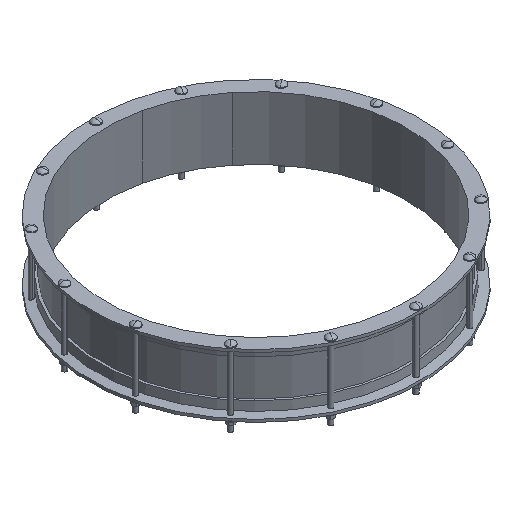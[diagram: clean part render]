
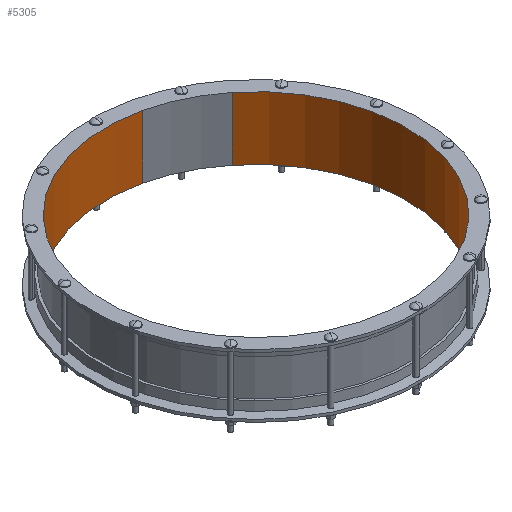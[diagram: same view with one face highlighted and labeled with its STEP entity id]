
A CAD part, isometric view. The second image highlights one B-rep face of the part: STEP entity #5305.
In plain terms, the highlighted cylindrical face has radius 535.25 mm (diameter 1070.5 mm), a partial arc.
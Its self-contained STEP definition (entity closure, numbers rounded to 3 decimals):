
#266=CARTESIAN_POINT('',(0.,0.,-112.));
#267=DIRECTION('',(0.,0.,-1.));
#268=DIRECTION('',(0.623,0.782,0.));
#269=AXIS2_PLACEMENT_3D('',#266,#267,#268);
#416=DIRECTION('',(0.,0.,1.));
#417=VECTOR('',#416,224.);
#418=CARTESIAN_POINT('',(119.104,521.83,-112.));
#419=LINE('',#418,#417);
#420=CARTESIAN_POINT('',(0.,0.,112.));
#421=DIRECTION('',(0.,0.,-1.));
#422=DIRECTION('',(0.623,0.782,0.));
#423=AXIS2_PLACEMENT_3D('',#420,#421,#422);
#430=DIRECTION('',(0.,0.,1.));
#431=VECTOR('',#430,224.);
#432=CARTESIAN_POINT('',(333.723,418.475,-112.));
#433=LINE('',#432,#431);
#4902=CARTESIAN_POINT('',(119.104,521.83,-112.));
#4903=CARTESIAN_POINT('',(119.104,521.83,112.));
#4904=VERTEX_POINT('',#4902);
#4905=VERTEX_POINT('',#4903);
#4926=CARTESIAN_POINT('',(333.723,418.475,-112.));
#4927=CARTESIAN_POINT('',(333.723,418.475,112.));
#4928=VERTEX_POINT('',#4926);
#4929=VERTEX_POINT('',#4927);
#5291=CARTESIAN_POINT('',(0.,0.,-123.2));
#5292=DIRECTION('',(0.,0.,1.));
#5293=DIRECTION('',(-0.223,0.975,0.));
#5294=AXIS2_PLACEMENT_3D('',#5291,#5292,#5293);
#5295=CYLINDRICAL_SURFACE('',#5294,535.25);
#5297=ORIENTED_EDGE('',*,*,#5296,.F.);
#5298=ORIENTED_EDGE('',*,*,#5284,.F.);
#5300=ORIENTED_EDGE('',*,*,#5299,.T.);
#5302=ORIENTED_EDGE('',*,*,#5301,.T.);
#5303=EDGE_LOOP('',(#5297,#5298,#5300,#5302));
#5304=FACE_OUTER_BOUND('',#5303,.F.);
#5305=ADVANCED_FACE('',(#5304),#5295,.F.);
#270=CIRCLE('',#269,535.25);
#424=CIRCLE('',#423,535.25);
#5284=EDGE_CURVE('',#4928,#4904,#270,.T.);
#5296=EDGE_CURVE('',#4904,#4905,#419,.T.);
#5299=EDGE_CURVE('',#4928,#4929,#433,.T.);
#5301=EDGE_CURVE('',#4929,#4905,#424,.T.);
